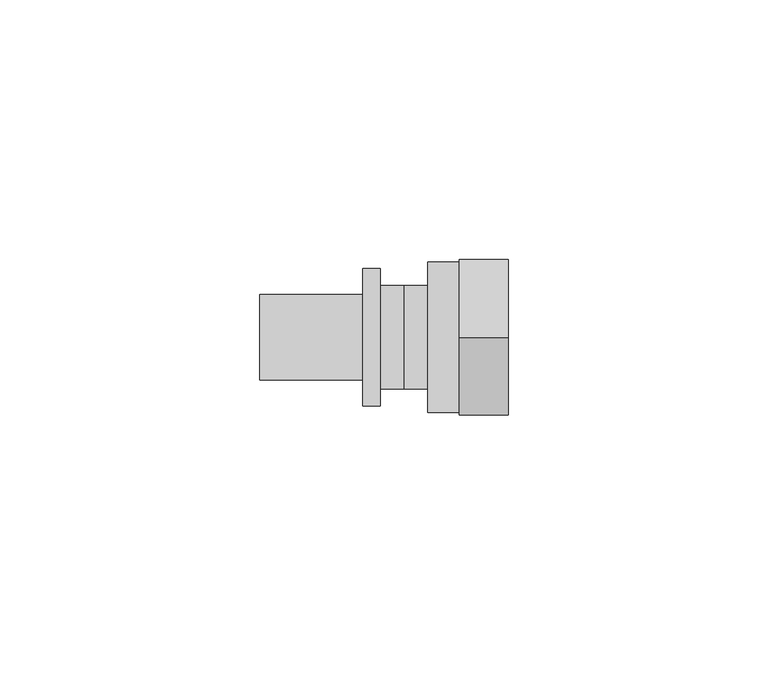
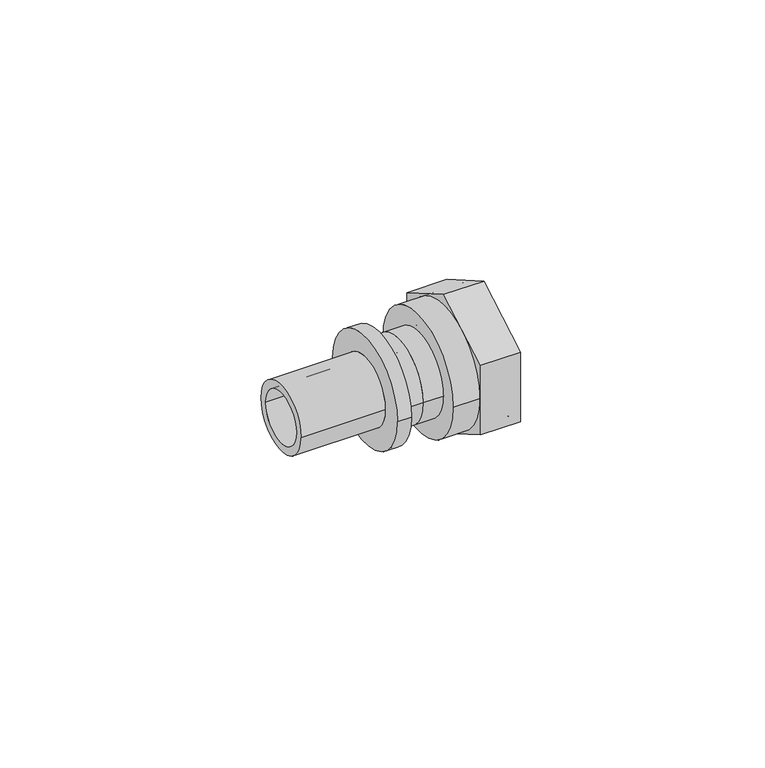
"""IFC4 building model written with IfcOpenShell, lengths in millimetres: pipe fitting geometry, REHAU_RAUTITAN_Adaptor_RX+_union nut : REHAU_RAUTITAN_Adaptor_RX+_union nut."""

import ifcopenshell
import ifcopenshell.guid

model = None  # the IFC model being written
_history = None  # IfcOwnerHistory: only IFC2X3 demands one
_inside = {}  # id of a spatial element -> (the spatial element, [elements in it])
_under = {}  # id of a project, library or spatial element -> (it, [spatial elements below it])
_declared = {}  # id of a project -> (the project, [libraries it declares])
_typed = {}  # id of a type object -> (the type object, [elements of that type])
_made_of = {}  # id of a material, layer set ... -> (it, [elements and type objects made of it])


def new_model(schema):
    """Start an empty IFC model of exactly this schema.

    Asked for "IFC4X3", IfcOpenShell would pick the latest addendum, in which some entities
    have other attributes; the version numbers below select the first issue.
    IFC2X3 requires an IfcOwnerHistory on every rooted entity: one is made here for all.
    """
    global model, _history
    if schema == "IFC4X3":
        model = ifcopenshell.file(schema_version=(4, 3, 0, 0))
    else:
        model = ifcopenshell.file(schema=schema)
    _inside.clear()
    _under.clear()
    _declared.clear()
    _typed.clear()
    _made_of.clear()
    _history = None
    if model.schema == "IFC2X3":
        org = make("IfcOrganization", Name="unknown")
        user = make(
            "IfcPersonAndOrganization",
            ThePerson=make("IfcPerson", FamilyName="unknown"),
            TheOrganization=org,
        )
        app = make(
            "IfcApplication",
            ApplicationDeveloper=org,
            Version="unknown",
            ApplicationFullName="unknown",
            ApplicationIdentifier="unknown",
        )
        _history = make(
            "IfcOwnerHistory",
            OwningUser=user,
            OwningApplication=app,
            ChangeAction="ADDED",
            CreationDate=0,
        )
    return model


def make(cls, **values):
    """One entity of the class cls with the attributes given. An attribute that is None is left unset."""
    return model.create_entity(
        cls, **{name: value for name, value in values.items() if value is not None}
    )


def rooted(cls, **values):
    """An entity with a GlobalId (a new one), such as an element, a storey or a relation."""
    return make(cls, GlobalId=ifcopenshell.guid.new(), OwnerHistory=_history, **values)


def si_unit(unit_type, name, prefix=None):
    """IfcSIUnit, for example si_unit("LENGTHUNIT", "METRE", prefix="MILLI")."""
    return make("IfcSIUnit", UnitType=unit_type, Prefix=prefix, Name=name)


def assignment(units):
    """IfcUnitAssignment: the units of a project."""
    return None if units is None else make("IfcUnitAssignment", Units=units)


def point(xyz):
    """IfcCartesianPoint."""
    return None if xyz is None else make("IfcCartesianPoint", Coordinates=xyz)


def direction(xyz):
    """IfcDirection."""
    return None if xyz is None else make("IfcDirection", DirectionRatios=xyz)


def frame(location, z_axis=None, x_axis=None):
    """IfcAxis2Placement3D, a coordinate frame: its origin and axes. An axis left out is left unset."""
    return make(
        "IfcAxis2Placement3D",
        Location=point(location),
        Axis=direction(z_axis),
        RefDirection=direction(x_axis),
    )


def frame_2d(location, x_axis=None):
    """IfcAxis2Placement2D, a coordinate frame in the plane: its origin and x axis."""
    return make(
        "IfcAxis2Placement2D", Location=point(location), RefDirection=direction(x_axis)
    )


def origin():
    """The frame at (0, 0, 0) with its axes left unset."""
    return frame((0.0, 0.0, 0.0))


def origin_2d():
    """The frame at (0, 0) in the plane with its x axis left unset."""
    return frame_2d((0.0, 0.0))


def place(relative_to, where):
    """IfcLocalPlacement: puts the frame where relative to a parent placement (None: the world)."""
    return make(
        "IfcLocalPlacement", PlacementRelTo=relative_to, RelativePlacement=where
    )


def context(
    kind, dimensions, precision=None, world=None, true_north=None, identifier=None
):
    """IfcGeometricRepresentationContext, for example the 3D "Model" context."""
    return make(
        "IfcGeometricRepresentationContext",
        ContextIdentifier=identifier,
        ContextType=kind,
        CoordinateSpaceDimension=dimensions,
        Precision=precision,
        WorldCoordinateSystem=world,
        TrueNorth=true_north,
    )


def project(units=None, contexts=None):
    """IfcProject with its units and contexts."""
    return rooted(
        "IfcProject",
        Name="project",
        RepresentationContexts=contexts,
        UnitsInContext=assignment(units),
    )


def spatial(cls, under=None, at=None, **own):
    """A site, building, storey or space (cls), placed at a placement, below another one or the project."""
    s = rooted(cls, ObjectPlacement=at, **own)
    if under is not None:
        _under.setdefault(under.id(), (under, []))[1].append(s)
    return s


def polyline(points):
    """IfcPolyline through the points."""
    return make("IfcPolyline", Points=[point(p) for p in points])


def circle_curve(where, radius):
    """IfcCircle in the frame where."""
    return make("IfcCircle", Position=where, Radius=radius)


def trimmed(basis, trim1, trim2, sense, master):
    """IfcTrimmedCurve: the piece of a basis curve between two trims."""
    return make(
        "IfcTrimmedCurve",
        BasisCurve=basis,
        Trim1=trim1,
        Trim2=trim2,
        SenseAgreement=sense,
        MasterRepresentation=master,
    )


def segment(curve, same_sense, transition):
    """IfcCompositeCurveSegment."""
    return make(
        "IfcCompositeCurveSegment",
        Transition=transition,
        SameSense=same_sense,
        ParentCurve=curve,
    )


def composite_curve(segments, self_intersect=None):
    """IfcCompositeCurve: segments joined end to end."""
    return make("IfcCompositeCurve", Segments=segments, SelfIntersect=self_intersect)


def outline(outer, holes=None, kind="AREA"):
    """IfcArbitraryClosedProfileDef: a profile drawn as a closed curve; with holes, ...WithVoids."""
    if holes is None:
        return make("IfcArbitraryClosedProfileDef", ProfileType=kind, OuterCurve=outer)
    return make(
        "IfcArbitraryProfileDefWithVoids",
        ProfileType=kind,
        OuterCurve=outer,
        InnerCurves=holes,
    )


def extrude(swept, where, along, depth):
    """IfcExtrudedAreaSolid: the profile swept, set in the frame where, extruded along a direction by depth."""
    return make(
        "IfcExtrudedAreaSolid",
        SweptArea=swept,
        Position=where,
        ExtrudedDirection=direction(along),
        Depth=depth,
    )


def shape(context_of_items, identifier, shape_type, items):
    """IfcShapeRepresentation: the items that make up one representation, for example the "Body"."""
    return make(
        "IfcShapeRepresentation",
        ContextOfItems=context_of_items,
        RepresentationIdentifier=identifier,
        RepresentationType=shape_type,
        Items=items,
    )


def source(mapping_origin, context_of_items, identifier, shape_type, items):
    """IfcRepresentationMap: a shape defined once, which mapped items show again and again."""
    return make(
        "IfcRepresentationMap",
        MappingOrigin=mapping_origin,
        MappedRepresentation=shape(context_of_items, identifier, shape_type, items),
    )


def transform(
    local_origin,
    x_axis=None,
    y_axis=None,
    z_axis=None,
    scale=None,
    scale2=None,
    scale3=None,
    uniform=True,
):
    """IfcCartesianTransformationOperator3D, or its non-uniform kind. x_axis, y_axis, z_axis: its Axis1, 2, 3."""
    if uniform:
        return make(
            "IfcCartesianTransformationOperator3D",
            Axis1=direction(x_axis),
            Axis2=direction(y_axis),
            LocalOrigin=point(local_origin),
            Scale=scale,
            Axis3=direction(z_axis),
        )
    return make(
        "IfcCartesianTransformationOperator3DnonUniform",
        Axis1=direction(x_axis),
        Axis2=direction(y_axis),
        LocalOrigin=point(local_origin),
        Scale=scale,
        Axis3=direction(z_axis),
        Scale2=scale2,
        Scale3=scale3,
    )


def mapped(mapping_source, mapping_target):
    """IfcMappedItem: shows the shape of a source again, moved by a transform."""
    return make(
        "IfcMappedItem", MappingSource=mapping_source, MappingTarget=mapping_target
    )


def made_of(thing, what):
    """Note that an element or type object is made of a material, layer set ...; save() writes the relation."""
    if what is not None:
        _made_of.setdefault(what.id(), (what, []))[1].append(thing)
    return thing


def element(
    cls,
    number,
    at=None,
    inside=None,
    cuts=None,
    type_object=None,
    material=None,
    context=None,
    identifier="Body",
    shape_type=None,
    held_by="IfcProductDefinitionShape",
    body=None,
    shapes=None,
    **own,
):
    """One element of the class cls, such as IfcWall. Its Tag is "e" and its number.

    at: its placement. inside: the storey or other place that contains it. cuts: it is an
    opening in that element (IfcRelVoidsElement). A single representation is given by context,
    identifier, shape_type and body (its items); several are given by shapes. held_by: the class
    of the entity that holds the representations. save() writes the other relations.
    """
    e = rooted(cls, Tag="e%d" % number, ObjectPlacement=at, **own)
    if body is not None:
        shapes = [shape(context, identifier, shape_type, body)]
    if shapes is not None:
        e.Representation = make(held_by, Representations=shapes)
    if inside is not None:
        _inside.setdefault(inside.id(), (inside, []))[1].append(e)
    if cuts is not None:
        rooted(
            "IfcRelVoidsElement", RelatingBuildingElement=cuts, RelatedOpeningElement=e
        )
    if type_object is not None:
        _typed.setdefault(type_object.id(), (type_object, []))[1].append(e)
    return made_of(e, material)


def aggregate(whole, parts):
    """IfcRelAggregates: a whole, such as a stair, and the parts it consists of."""
    return rooted("IfcRelAggregates", RelatingObject=whole, RelatedObjects=parts)


def save(model, path):
    """Write the relations noted so far, then the file.

    IfcRelAggregates (storeys below a building ...), IfcRelContainedInSpatialStructure (elements
    in a storey), IfcRelDefinesByType, IfcRelAssociatesMaterial and IfcRelDeclares: one each for
    every whole, place, type object, material and project.
    """
    for whole, parts in _under.values():
        aggregate(whole, parts)
    for where, things in _inside.values():
        rooted(
            "IfcRelContainedInSpatialStructure",
            RelatedElements=things,
            RelatingStructure=where,
        )
    for kind, things in _typed.values():
        rooted("IfcRelDefinesByType", RelatedObjects=things, RelatingType=kind)
    for what, things in _made_of.values():
        rooted("IfcRelAssociatesMaterial", RelatedObjects=things, RelatingMaterial=what)
    for by, libraries in _declared.values():
        rooted("IfcRelDeclares", RelatingContext=by, RelatedDefinitions=libraries)
    model.write(path)


def plane_surface(at):
    """IfcPlane: the flat surface through the origin of the frame at, square to its z axis."""
    return make("IfcPlane", Position=at)


def cylinder_surface(at, radius):
    """IfcCylindricalSurface: all points at the distance radius from the z axis of the frame at."""
    return make("IfcCylindricalSurface", Position=at, Radius=radius)


def revolved_surface(curve, axis_point, axis_direction):
    """IfcSurfaceOfRevolution: the curve turned about the line through axis_point along axis_direction."""
    return make(
        "IfcSurfaceOfRevolution",
        SweptCurve=make("IfcArbitraryOpenProfileDef", ProfileType="CURVE", Curve=curve),
        AxisPosition=make("IfcAxis1Placement", Location=point(axis_point), Axis=direction(axis_direction)),
    )


def advanced_brep(points, edges, surfaces, faces):
    """IfcAdvancedBrep: a solid bounded by faces that lie on surfaces and meet in shared edges.

    An edge is (start, end): straight between two places in points (the first is 0);
    or (start, end, curve); or (start, end, curve, False) where it runs against its curve.
    A face is (place in surfaces, loops), or (place, loops, False) where it looks against
    its surface's normal. A loop lists edges by number (the first is 1), with a minus sign
    where the edge is run from its end to its start. The first loop is the outer one.
    """
    corners = [point(p) for p in points]
    vertices = [make("IfcVertexPoint", VertexGeometry=c) for c in corners]
    made = []
    for start, end, *more in edges:
        made.append(
            make(
                "IfcEdgeCurve",
                EdgeStart=vertices[start],
                EdgeEnd=vertices[end],
                EdgeGeometry=more[0] if more else make("IfcPolyline", Points=[corners[start], corners[end]]),
                SameSense=more[1] if len(more) > 1 else True,
            )
        )
    hull = []
    for where, loops, *sense in faces:
        bounds = []
        for j, loop in enumerate(loops):
            ring = [make("IfcOrientedEdge", EdgeElement=made[abs(k) - 1], Orientation=k > 0) for k in loop]
            bounds.append(
                make(
                    "IfcFaceOuterBound" if j == 0 else "IfcFaceBound",
                    Bound=make("IfcEdgeLoop", EdgeList=ring),
                    Orientation=True,
                )
            )
        hull.append(make("IfcAdvancedFace", Bounds=bounds, FaceSurface=surfaces[where], SameSense=sense[0] if sense else True))
    return make("IfcAdvancedBrep", Outer=make("IfcClosedShell", CfsFaces=hull))


def pipe_fitting_cd996b98(model_context):
    return source(origin(), model_context, "Body", "SolidModel", [
        advanced_brep(
        [(0.0, 10.0, 0.0), (0.0, -10.0, 0.0), (-4.55, -10.0, 0.0), (-4.55, 10.0, 0.0), (-27.75, 6.25, 0.0), (-27.75, -6.25, 0.0), (0.0, -6.25, 0.0), (0.0, 6.25, 0.0), (-7.9, 8.225, 0.0), (-7.9, -8.225, 0.0), (-27.75, -8.225, 0.0), (-27.75, 8.225, 0.0), (-4.55, 13.25, 0.0), (-4.55, -13.25, 0.0), (-7.9, -13.25, 0.0), (-7.9, 13.25, 0.0)],
        [
            (0, 1, circle_curve(frame((0.0, 0.0, 0.0), z_axis=(-1.0, 0.0, 0.0), x_axis=(0.0, -1.0, 0.0)), 10.0)),
            (1, 2),
            (2, 3, circle_curve(frame((-4.55, 0.0, 0.0), z_axis=(1.0, 0.0, 0.0), x_axis=(0.0, -1.0, 0.0)), 10.0)),
            (3, 0),
            (4, 5, circle_curve(frame((-27.75, 0.0, 0.0), z_axis=(-1.0, 0.0, 0.0), x_axis=(0.0, -1.0, 0.0)), 6.25)),
            (5, 6),
            (6, 7, circle_curve(frame((0.0, 0.0, 0.0), z_axis=(1.0, 0.0, 0.0), x_axis=(0.0, -1.0, 0.0)), 6.25)),
            (7, 4),
            (8, 9, circle_curve(frame((-7.9, 0.0, 0.0), z_axis=(-1.0, 0.0, 0.0), x_axis=(0.0, -1.0, 0.0)), 8.225)),
            (9, 10),
            (10, 11, circle_curve(frame((-27.75, 0.0, 0.0), z_axis=(1.0, 0.0, 0.0), x_axis=(0.0, -1.0, 0.0)), 8.225)),
            (11, 8),
            (12, 13, circle_curve(frame((-4.55, 0.0, 0.0), z_axis=(-1.0, 0.0, 0.0), x_axis=(0.0, -1.0, 0.0)), 13.25)),
            (13, 14),
            (14, 15, circle_curve(frame((-7.9, 0.0, 0.0), z_axis=(1.0, 0.0, 0.0), x_axis=(0.0, -1.0, 0.0)), 13.25)),
            (15, 12),
            (1, 0, circle_curve(frame((0.0, 0.0, 0.0), z_axis=(-1.0, 0.0, 0.0), x_axis=(0.0, 1.0, 0.0)), 10.0)),
            (3, 2, circle_curve(frame((-4.55, 0.0, 0.0), z_axis=(1.0, 0.0, 0.0), x_axis=(0.0, 1.0, 0.0)), 10.0)),
            (6, 7, circle_curve(frame((0.0, 0.0, 0.0), z_axis=(-1.0, 0.0, 0.0), x_axis=(0.0, 1.0, 0.0)), 6.25)),
            (5, 4, circle_curve(frame((-27.75, 0.0, 0.0), z_axis=(-1.0, 0.0, 0.0), x_axis=(0.0, 1.0, 0.0)), 6.25)),
            (10, 11, circle_curve(frame((-27.75, 0.0, 0.0), z_axis=(-1.0, 0.0, 0.0), x_axis=(0.0, 1.0, 0.0)), 8.225)),
            (9, 8, circle_curve(frame((-7.9, 0.0, 0.0), z_axis=(-1.0, 0.0, 0.0), x_axis=(0.0, 1.0, 0.0)), 8.225)),
            (14, 15, circle_curve(frame((-7.9, 0.0, 0.0), z_axis=(-1.0, 0.0, 0.0), x_axis=(0.0, 1.0, 0.0)), 13.25)),
            (13, 12, circle_curve(frame((-4.55, 0.0, 0.0), z_axis=(-1.0, 0.0, 0.0), x_axis=(0.0, 1.0, 0.0)), 13.25)),
        ],
        [
            cylinder_surface(frame((0.0, 0.0, 0.0), z_axis=(1.0, 0.0, 0.0), x_axis=(0.0, -1.0, 0.0)), 10.0),
            revolved_surface(polyline([(0.0, -6.25, 0.0), (-27.75, -6.25, 0.0)]), (0.0, 0.0, 0.0), (1.0, 0.0, 0.0)),
            cylinder_surface(frame((0.0, 0.0, 0.0), z_axis=(1.0, 0.0, 0.0), x_axis=(0.0, -1.0, 0.0)), 8.225),
            cylinder_surface(frame((0.0, 0.0, 0.0), z_axis=(1.0, 0.0, 0.0), x_axis=(0.0, -1.0, 0.0)), 13.25),
            cylinder_surface(frame((0.0, 0.0, 0.0), z_axis=(1.0, 0.0, 0.0), x_axis=(0.0, 1.0, 0.0)), 10.0),
            plane_surface(frame((0.0, 0.0, 0.0), z_axis=(1.0, 0.0, 0.0), x_axis=(0.0, 1.0, 0.0))),
            revolved_surface(polyline([(0.0, 6.25, 0.0), (-27.75, 6.25, 0.0)]), (0.0, 0.0, 0.0), (1.0, 0.0, 0.0)),
            plane_surface(frame((-27.75, 0.0, 0.0), z_axis=(-1.0, 0.0, 0.0), x_axis=(0.0, 1.0, 0.0))),
            cylinder_surface(frame((0.0, 0.0, 0.0), z_axis=(1.0, 0.0, 0.0), x_axis=(0.0, 1.0, 0.0)), 8.225),
            plane_surface(frame((-7.9, 0.0, 0.0), z_axis=(-1.0, 0.0, 0.0), x_axis=(0.0, 1.0, 0.0))),
            cylinder_surface(frame((0.0, 0.0, 0.0), z_axis=(1.0, 0.0, 0.0), x_axis=(0.0, 1.0, 0.0)), 13.25),
            plane_surface(frame((-4.55, 0.0, 0.0), z_axis=(1.0, 0.0, 0.0), x_axis=(0.0, 1.0, 0.0))),
        ],
        [
            (0, [[1, 2, 3, 4]]),
            (1, [[5, 6, 7, 8]]),
            (2, [[9, 10, 11, 12]]),
            (3, [[13, 14, 15, 16]]),
            (4, [[17, -4, 18, -2]]),
            (5, [[-17, -1], [19, -7]]),
            (6, [[20, -8, -19, -6]]),
            (7, [[21, -11], [-20, -5]]),
            (8, [[22, -12, -21, -10]]),
            (9, [[23, -15], [-22, -9]]),
            (10, [[24, -16, -23, -14]]),
            (11, [[-24, -13], [-18, -3]]),
        ],
    ),
        advanced_brep(
        [(7.45, 10.0, 0.0), (7.45, -10.0, 0.0), (0.0, -10.0, 0.0), (0.0, 10.0, 0.0), (10.45, 12.0, 0.0), (10.45, -12.0, 0.0), (7.45, -12.0, 0.0), (7.45, 12.0, 0.0), (1.4730817, 7.25, 0.0), (1.4730817, -7.25, 0.0), (10.45, -7.25, 0.0), (10.45, 7.25, 0.0), (0.0, 5.0764556, 0.0), (0.0, -5.0764556, 0.0), (1.4730817, -5.0764556, 0.0), (1.4730817, 5.0764556, 0.0)],
        [
            (0, 1, circle_curve(frame((7.45, 0.0, 0.0), z_axis=(-1.0, 0.0, 0.0), x_axis=(0.0, -1.0, 0.0)), 10.0)),
            (1, 2),
            (2, 3, circle_curve(frame((0.0, 0.0, 0.0), z_axis=(1.0, 0.0, 0.0), x_axis=(0.0, -1.0, 0.0)), 10.0)),
            (3, 0),
            (4, 5, circle_curve(frame((10.45, 0.0, 0.0), z_axis=(-1.0, 0.0, 0.0), x_axis=(0.0, -1.0, 0.0)), 12.0)),
            (5, 6),
            (6, 7, circle_curve(frame((7.45, 0.0, 0.0), z_axis=(1.0, 0.0, 0.0), x_axis=(0.0, -1.0, 0.0)), 12.0)),
            (7, 4),
            (8, 9, circle_curve(frame((1.4730817, 0.0, 0.0), z_axis=(-1.0, 0.0, 0.0), x_axis=(0.0, -1.0, 0.0)), 7.25)),
            (9, 10),
            (10, 11, circle_curve(frame((10.45, 0.0, 0.0), z_axis=(1.0, 0.0, 0.0), x_axis=(0.0, -1.0, 0.0)), 7.25)),
            (11, 8),
            (2, 3, circle_curve(frame((0.0, 0.0, 0.0), z_axis=(-1.0, 0.0, 0.0), x_axis=(0.0, 1.0, 0.0)), 10.0)),
            (12, 13, circle_curve(frame((0.0, 0.0, 0.0), z_axis=(1.0, 0.0, 0.0), x_axis=(0.0, 1.0, 0.0)), 5.0764556)),
            (13, 12, circle_curve(frame((0.0, 0.0, 0.0), z_axis=(1.0, 0.0, 0.0), x_axis=(0.0, -1.0, 0.0)), 5.0764556)),
            (1, 0, circle_curve(frame((7.45, 0.0, 0.0), z_axis=(-1.0, 0.0, 0.0), x_axis=(0.0, 1.0, 0.0)), 10.0)),
            (6, 7, circle_curve(frame((7.45, 0.0, 0.0), z_axis=(-1.0, 0.0, 0.0), x_axis=(0.0, 1.0, 0.0)), 12.0)),
            (5, 4, circle_curve(frame((10.45, 0.0, 0.0), z_axis=(-1.0, 0.0, 0.0), x_axis=(0.0, 1.0, 0.0)), 12.0)),
            (10, 11, circle_curve(frame((10.45, 0.0, 0.0), z_axis=(-1.0, 0.0, 0.0), x_axis=(0.0, 1.0, 0.0)), 7.25)),
            (9, 8, circle_curve(frame((1.4730817, 0.0, 0.0), z_axis=(-1.0, 0.0, 0.0), x_axis=(0.0, 1.0, 0.0)), 7.25)),
            (13, 14),
            (14, 15, circle_curve(frame((1.4730817, 0.0, 0.0), z_axis=(1.0, 0.0, 0.0), x_axis=(0.0, -1.0, 0.0)), 5.0764556)),
            (15, 12),
            (14, 15, circle_curve(frame((1.4730817, 0.0, 0.0), z_axis=(-1.0, 0.0, 0.0), x_axis=(0.0, 1.0, 0.0)), 5.0764556)),
        ],
        [
            cylinder_surface(frame((0.0, 0.0, 0.0), z_axis=(1.0, 0.0, 0.0), x_axis=(0.0, -1.0, 0.0)), 10.0),
            cylinder_surface(frame((0.0, 0.0, 0.0), z_axis=(1.0, 0.0, 0.0), x_axis=(0.0, -1.0, 0.0)), 12.0),
            revolved_surface(polyline([(10.45, -7.25, 0.0), (1.4730817, -7.25, 0.0)]), (0.0, 0.0, 0.0), (1.0, 0.0, 0.0)),
            plane_surface(frame((0.0, 0.0, 0.0), z_axis=(-1.0, 0.0, 0.0), x_axis=(0.0, 1.0, 0.0))),
            cylinder_surface(frame((0.0, 0.0, 0.0), z_axis=(1.0, 0.0, 0.0), x_axis=(0.0, 1.0, 0.0)), 10.0),
            plane_surface(frame((7.45, 0.0, 0.0), z_axis=(-1.0, 0.0, 0.0), x_axis=(0.0, 1.0, 0.0))),
            cylinder_surface(frame((0.0, 0.0, 0.0), z_axis=(1.0, 0.0, 0.0), x_axis=(0.0, 1.0, 0.0)), 12.0),
            plane_surface(frame((10.45, 0.0, 0.0), z_axis=(1.0, 0.0, 0.0), x_axis=(0.0, 1.0, 0.0))),
            revolved_surface(polyline([(10.45, 7.25, 0.0), (1.4730817, 7.25, 0.0)]), (0.0, 0.0, 0.0), (1.0, 0.0, 0.0)),
            revolved_surface(polyline([(1.4730817, -5.0764556, 0.0), (0.0, -5.0764556, 0.0)]), (0.0, 0.0, 0.0), (1.0, 0.0, 0.0)),
            plane_surface(frame((1.4730817, 0.0, 0.0), z_axis=(1.0, 0.0, 0.0), x_axis=(0.0, 1.0, 0.0))),
            revolved_surface(polyline([(1.4730817, 5.0764556, 0.0), (0.0, 5.0764556, 0.0)]), (0.0, 0.0, 0.0), (1.0, 0.0, 0.0)),
        ],
        [
            (0, [[1, 2, 3, 4]]),
            (1, [[5, 6, 7, 8]]),
            (2, [[9, 10, 11, 12]]),
            (3, [[13, -3], [14, 15]]),
            (4, [[16, -4, -13, -2]]),
            (5, [[17, -7], [-16, -1]]),
            (6, [[18, -8, -17, -6]]),
            (7, [[-18, -5], [19, -11]]),
            (8, [[20, -12, -19, -10]]),
            (9, [[-15, 21, 22, 23]]),
            (10, [[-20, -9], [24, -22]]),
            (11, [[-14, -23, -24, -21]]),
        ],
    ),
        advanced_brep(
        [(20.15, 14.5, 0.0), (20.15, -14.5, 0.0), (4.65, -14.5, 0.0), (4.65, 14.5, 0.0), (7.45, 12.0, 0.0), (7.45, -12.0, 0.0), (20.15, -12.0, 0.0), (20.15, 12.0, 0.0), (4.65, 9.2, 0.0), (4.65, -9.2, 0.0), (7.45, -9.2, 0.0), (7.45, 9.2, 0.0)],
        [
            (0, 1, circle_curve(frame((20.15, 0.0, 0.0), z_axis=(-1.0, 0.0, 0.0), x_axis=(0.0, -1.0, 0.0)), 14.5)),
            (1, 2),
            (2, 3, circle_curve(frame((4.65, 0.0, 0.0), z_axis=(1.0, 0.0, 0.0), x_axis=(0.0, -1.0, 0.0)), 14.5)),
            (3, 0),
            (4, 5, circle_curve(frame((7.45, 0.0, 0.0), z_axis=(-1.0, 0.0, 0.0), x_axis=(0.0, -1.0, 0.0)), 12.0)),
            (5, 6),
            (6, 7, circle_curve(frame((20.15, 0.0, 0.0), z_axis=(1.0, 0.0, 0.0), x_axis=(0.0, -1.0, 0.0)), 12.0)),
            (7, 4),
            (8, 9, circle_curve(frame((4.65, 0.0, 0.0), z_axis=(-1.0, 0.0, 0.0), x_axis=(0.0, -1.0, 0.0)), 9.2)),
            (9, 10),
            (10, 11, circle_curve(frame((7.45, 0.0, 0.0), z_axis=(1.0, 0.0, 0.0), x_axis=(0.0, -1.0, 0.0)), 9.2)),
            (11, 8),
            (1, 0, circle_curve(frame((20.15, 0.0, 0.0), z_axis=(-1.0, 0.0, 0.0), x_axis=(0.0, 1.0, 0.0)), 14.5)),
            (3, 2, circle_curve(frame((4.65, 0.0, 0.0), z_axis=(1.0, 0.0, 0.0), x_axis=(0.0, 1.0, 0.0)), 14.5)),
            (6, 7, circle_curve(frame((20.15, 0.0, 0.0), z_axis=(-1.0, 0.0, 0.0), x_axis=(0.0, 1.0, 0.0)), 12.0)),
            (5, 4, circle_curve(frame((7.45, 0.0, 0.0), z_axis=(-1.0, 0.0, 0.0), x_axis=(0.0, 1.0, 0.0)), 12.0)),
            (10, 11, circle_curve(frame((7.45, 0.0, 0.0), z_axis=(-1.0, 0.0, 0.0), x_axis=(0.0, 1.0, 0.0)), 9.2)),
            (9, 8, circle_curve(frame((4.65, 0.0, 0.0), z_axis=(-1.0, 0.0, 0.0), x_axis=(0.0, 1.0, 0.0)), 9.2)),
        ],
        [
            cylinder_surface(frame((0.0, 0.0, 0.0), z_axis=(1.0, 0.0, 0.0), x_axis=(0.0, -1.0, 0.0)), 14.5),
            revolved_surface(polyline([(20.15, -12.0, 0.0), (7.45, -12.0, 0.0)]), (0.0, 0.0, 0.0), (1.0, 0.0, 0.0)),
            revolved_surface(polyline([(7.45, -9.2, 0.0), (4.65, -9.2, 0.0)]), (0.0, 0.0, 0.0), (1.0, 0.0, 0.0)),
            cylinder_surface(frame((0.0, 0.0, 0.0), z_axis=(1.0, 0.0, 0.0), x_axis=(0.0, 1.0, 0.0)), 14.5),
            plane_surface(frame((20.15, 0.0, 0.0), z_axis=(1.0, 0.0, 0.0), x_axis=(0.0, 1.0, 0.0))),
            revolved_surface(polyline([(20.15, 12.0, 0.0), (7.45, 12.0, 0.0)]), (0.0, 0.0, 0.0), (1.0, 0.0, 0.0)),
            plane_surface(frame((7.45, 0.0, 0.0), z_axis=(1.0, 0.0, 0.0), x_axis=(0.0, 1.0, 0.0))),
            revolved_surface(polyline([(7.45, 9.2, 0.0), (4.65, 9.2, 0.0)]), (0.0, 0.0, 0.0), (1.0, 0.0, 0.0)),
            plane_surface(frame((4.65, 0.0, 0.0), z_axis=(-1.0, 0.0, 0.0), x_axis=(0.0, 1.0, 0.0))),
        ],
        [
            (0, [[1, 2, 3, 4]]),
            (1, [[5, 6, 7, 8]]),
            (2, [[9, 10, 11, 12]]),
            (3, [[13, -4, 14, -2]]),
            (4, [[-13, -1], [15, -7]]),
            (5, [[16, -8, -15, -6]]),
            (6, [[-16, -5], [17, -11]]),
            (7, [[18, -12, -17, -10]]),
            (8, [[-14, -3], [-18, -9]]),
        ],
    ),
        extrude(outline(polyline([(0.0, -17.3205081), (-15.0, -8.660254), (-15.0, 8.660254), (0.0, 17.3205081), (15.0, 8.660254), (15.0, -8.660254), (0.0, -17.3205081)]), holes=[composite_curve([segment(trimmed(circle_curve(origin_2d(), 14.5), [point((-14.5, 0.0))], [point((14.5, 0.0))], True, "CARTESIAN"), True, "CONTINUOUS"), segment(trimmed(circle_curve(origin_2d(), 14.5), [point((14.5, 0.0))], [point((-14.5, 0.0))], True, "CARTESIAN"), True, "CONTINUOUS")], self_intersect=False)]), frame((10.65, 0.0, 0.0), z_axis=(1.0, 0.0, 0.0), x_axis=(0.0, 1.0, 0.0)), (0.0, 0.0, 1.0), 9.5),
    ])


if __name__ == "__main__":
    model = new_model("IFC4")
    model_context = context("Model", 3, world=origin())
    ifc_project = project(units=[si_unit("LENGTHUNIT", "METRE", prefix="MILLI")], contexts=[model_context])
    site = spatial("IfcSite", under=ifc_project)
    building = spatial("IfcBuilding", under=site)
    placement = place(None, origin())
    pipe_fitting_shape = pipe_fitting_cd996b98(model_context)
    element("IfcPipeFitting", 1, ObjectType="REHAU_RAUTITAN_Adaptor_RX+_union nut : REHAU_RAUTITAN_Adaptor_RX+_union nut", at=placement, inside=building, context=model_context, shape_type="MappedRepresentation", body=[
        mapped(pipe_fitting_shape, transform((0.0, 0.0, 0.0), x_axis=(1.0, 0.0, 0.0), y_axis=(0.0, 1.0, 0.0), z_axis=(0.0, 0.0, 1.0))),
    ])
    save(model, "model.ifc")
